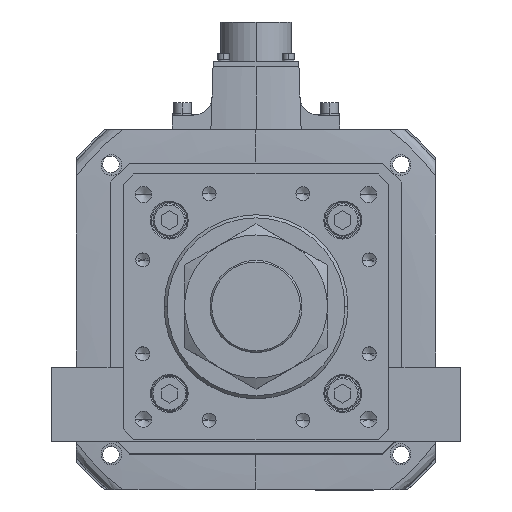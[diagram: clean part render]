
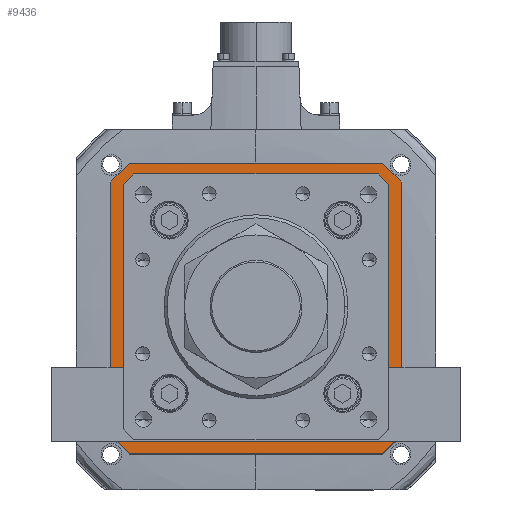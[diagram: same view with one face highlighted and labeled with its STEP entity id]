
A CAD part, top view. The second image highlights one B-rep face of the part: STEP entity #9436.
In plain terms, the highlighted planar face has unit normal (0, 0, 1).
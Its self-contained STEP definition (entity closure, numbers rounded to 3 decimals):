
#905 = VERTEX_POINT ( 'NONE', #12034 ) ;
#957 = PLANE ( 'NONE',  #25339 ) ;
#1914 = CARTESIAN_POINT ( 'NONE',  ( -71., 62., -142. ) ) ;
#3698 = VERTEX_POINT ( 'NONE', #8745 ) ;
#3820 = VERTEX_POINT ( 'NONE', #12893 ) ;
#3944 = EDGE_CURVE ( 'NONE', #53028, #33631, #14837, .T. ) ;
#4270 = VERTEX_POINT ( 'NONE', #23566 ) ;
#4489 = EDGE_CURVE ( 'NONE', #39686, #50853, #49166, .T. ) ;
#5051 = ORIENTED_EDGE ( 'NONE', *, *, #18281, .T. ) ;
#5114 = CARTESIAN_POINT ( 'NONE',  ( 63., -58.793, -142. ) ) ;
#5916 = FACE_BOUND ( 'NONE', #10498, .T. ) ;
#6188 = VECTOR ( 'NONE', #25445, 1000. ) ;
#6814 = CARTESIAN_POINT ( 'NONE',  ( -60.896, 60.896, -142. ) ) ;
#6905 = EDGE_CURVE ( 'NONE', #905, #28136, #30762, .T. ) ;
#7052 = ORIENTED_EDGE ( 'NONE', *, *, #8909, .F. ) ;
#7929 = VECTOR ( 'NONE', #20822, 1000. ) ;
#8326 = EDGE_CURVE ( 'NONE', #53724, #39958, #26321, .T. ) ;
#8618 = VECTOR ( 'NONE', #10969, 1000. ) ;
#8745 = CARTESIAN_POINT ( 'NONE',  ( 58.793, -63., -142. ) ) ;
#8909 = EDGE_CURVE ( 'NONE', #39958, #51935, #41804, .T. ) ;
#9436 = ADVANCED_FACE ( 'NONE', ( #5916, #44417 ), #957, .T. ) ;
#10498 = EDGE_LOOP ( 'NONE', ( #46000, #5051, #18447, #42297, #38110, #28929, #38498, #14362 ) ) ;
#10584 = DIRECTION ( 'NONE',  ( -1., 0., 0. ) ) ;
#10606 = LINE ( 'NONE', #1914, #8618 ) ;
#10760 = VECTOR ( 'NONE', #48867, 1000. ) ;
#10800 = CARTESIAN_POINT ( 'NONE',  ( 62., -71., -142. ) ) ;
#10969 = DIRECTION ( 'NONE',  ( 0., 1., 0. ) ) ;
#11850 = CARTESIAN_POINT ( 'NONE',  ( -58.793, 63., -142. ) ) ;
#12034 = CARTESIAN_POINT ( 'NONE',  ( -62., -71., -142. ) ) ;
#12272 = CARTESIAN_POINT ( 'NONE',  ( 60.896, -60.896, -142. ) ) ;
#12893 = CARTESIAN_POINT ( 'NONE',  ( 58.793, 63., -142. ) ) ;
#12900 = VECTOR ( 'NONE', #10584, 1000. ) ;
#12929 = CARTESIAN_POINT ( 'NONE',  ( -71., -62., -142. ) ) ;
#13569 = LINE ( 'NONE', #53760, #12900 ) ;
#14362 = ORIENTED_EDGE ( 'NONE', *, *, #41370, .T. ) ;
#14371 = DIRECTION ( 'NONE',  ( 0., -1., 0. ) ) ;
#14837 = LINE ( 'NONE', #18898, #10760 ) ;
#17103 = EDGE_CURVE ( 'NONE', #54418, #3820, #36034, .T. ) ;
#17397 = CARTESIAN_POINT ( 'NONE',  ( 71., 62., -142. ) ) ;
#17477 = CARTESIAN_POINT ( 'NONE',  ( 63., 58.793, -142. ) ) ;
#18281 = EDGE_CURVE ( 'NONE', #52006, #3698, #36579, .T. ) ;
#18327 = VECTOR ( 'NONE', #54307, 1000. ) ;
#18447 = ORIENTED_EDGE ( 'NONE', *, *, #23890, .T. ) ;
#18494 = DIRECTION ( 'NONE',  ( 1., 0., 0. ) ) ;
#18898 = CARTESIAN_POINT ( 'NONE',  ( -63., 0., -142. ) ) ;
#19918 = CARTESIAN_POINT ( 'NONE',  ( 71., 62., -142. ) ) ;
#20165 = VECTOR ( 'NONE', #21077, 1000. ) ;
#20477 = VECTOR ( 'NONE', #28253, 1000. ) ;
#20822 = DIRECTION ( 'NONE',  ( 0.707, -0.707, 0. ) ) ;
#20971 = LINE ( 'NONE', #19918, #34468 ) ;
#21077 = DIRECTION ( 'NONE',  ( -0.707, -0.707, 0. ) ) ;
#21105 = VERTEX_POINT ( 'NONE', #39226 ) ;
#21559 = VECTOR ( 'NONE', #43640, 1000. ) ;
#21637 = VERTEX_POINT ( 'NONE', #17477 ) ;
#22244 = CARTESIAN_POINT ( 'NONE',  ( 0., 0., -142. ) ) ;
#22994 = LINE ( 'NONE', #53356, #48629 ) ;
#23566 = CARTESIAN_POINT ( 'NONE',  ( -58.793, -63., -142. ) ) ;
#23890 = EDGE_CURVE ( 'NONE', #3698, #4270, #13569, .T. ) ;
#23925 = CARTESIAN_POINT ( 'NONE',  ( 0., 63., -142. ) ) ;
#23940 = EDGE_CURVE ( 'NONE', #33631, #54418, #35166, .T. ) ;
#24584 = LINE ( 'NONE', #48124, #30010 ) ;
#25339 = AXIS2_PLACEMENT_3D ( 'NONE', #22244, #44315, #18494 ) ;
#25445 = DIRECTION ( 'NONE',  ( -0.707, -0.707, 0. ) ) ;
#25501 = CARTESIAN_POINT ( 'NONE',  ( 71., 62., -142. ) ) ;
#25774 = CARTESIAN_POINT ( 'NONE',  ( 62., -71., -142. ) ) ;
#25931 = DIRECTION ( 'NONE',  ( 1., 0., 0. ) ) ;
#26321 = LINE ( 'NONE', #42556, #55327 ) ;
#27340 = CARTESIAN_POINT ( 'NONE',  ( -63., 58.793, -142. ) ) ;
#28136 = VERTEX_POINT ( 'NONE', #12929 ) ;
#28253 = DIRECTION ( 'NONE',  ( 1., 0., 0. ) ) ;
#28896 = ORIENTED_EDGE ( 'NONE', *, *, #4489, .F. ) ;
#28929 = ORIENTED_EDGE ( 'NONE', *, *, #23940, .T. ) ;
#29273 = DIRECTION ( 'NONE',  ( 0.707, 0.707, 0. ) ) ;
#30010 = VECTOR ( 'NONE', #35682, 1000. ) ;
#30762 = LINE ( 'NONE', #42130, #54302 ) ;
#30924 = EDGE_CURVE ( 'NONE', #21105, #53724, #39363, .T. ) ;
#33631 = VERTEX_POINT ( 'NONE', #27340 ) ;
#34468 = VECTOR ( 'NONE', #50075, 1000. ) ;
#35166 = LINE ( 'NONE', #6814, #18327 ) ;
#35682 = DIRECTION ( 'NONE',  ( -0.707, 0.707, 0. ) ) ;
#36034 = LINE ( 'NONE', #23925, #20477 ) ;
#36579 = LINE ( 'NONE', #12272, #6188 ) ;
#36647 = VECTOR ( 'NONE', #29273, 1000. ) ;
#36747 = EDGE_CURVE ( 'NONE', #50853, #905, #42066, .T. ) ;
#37189 = ORIENTED_EDGE ( 'NONE', *, *, #8326, .F. ) ;
#38110 = ORIENTED_EDGE ( 'NONE', *, *, #3944, .T. ) ;
#38498 = ORIENTED_EDGE ( 'NONE', *, *, #17103, .T. ) ;
#38671 = EDGE_CURVE ( 'NONE', #51935, #39686, #20971, .T. ) ;
#39201 = ORIENTED_EDGE ( 'NONE', *, *, #36747, .F. ) ;
#39226 = CARTESIAN_POINT ( 'NONE',  ( -71., 62., -142. ) ) ;
#39363 = LINE ( 'NONE', #41526, #36647 ) ;
#39686 = VERTEX_POINT ( 'NONE', #40012 ) ;
#39958 = VERTEX_POINT ( 'NONE', #49262 ) ;
#40012 = CARTESIAN_POINT ( 'NONE',  ( 71., -62., -142. ) ) ;
#40978 = DIRECTION ( 'NONE',  ( -1., 0., 0. ) ) ;
#41370 = EDGE_CURVE ( 'NONE', #3820, #21637, #51093, .T. ) ;
#41526 = CARTESIAN_POINT ( 'NONE',  ( -62., 71., -142. ) ) ;
#41804 = LINE ( 'NONE', #25501, #21559 ) ;
#42066 = LINE ( 'NONE', #10800, #52897 ) ;
#42130 = CARTESIAN_POINT ( 'NONE',  ( -62., -71., -142. ) ) ;
#42297 = ORIENTED_EDGE ( 'NONE', *, *, #43354, .T. ) ;
#42556 = CARTESIAN_POINT ( 'NONE',  ( 62., 71., -142. ) ) ;
#42572 = CARTESIAN_POINT ( 'NONE',  ( 71., -62., -142. ) ) ;
#43354 = EDGE_CURVE ( 'NONE', #4270, #53028, #24584, .T. ) ;
#43640 = DIRECTION ( 'NONE',  ( 0.707, -0.707, 0. ) ) ;
#44315 = DIRECTION ( 'NONE',  ( 0., 0., 1. ) ) ;
#44417 = FACE_OUTER_BOUND ( 'NONE', #50254, .T. ) ;
#44943 = ORIENTED_EDGE ( 'NONE', *, *, #55714, .F. ) ;
#46000 = ORIENTED_EDGE ( 'NONE', *, *, #52280, .T. ) ;
#46547 = CARTESIAN_POINT ( 'NONE',  ( -62., 71., -142. ) ) ;
#46681 = CARTESIAN_POINT ( 'NONE',  ( 60.896, 60.896, -142. ) ) ;
#46844 = DIRECTION ( 'NONE',  ( -0.707, 0.707, 0. ) ) ;
#47663 = ORIENTED_EDGE ( 'NONE', *, *, #38671, .F. ) ;
#48124 = CARTESIAN_POINT ( 'NONE',  ( -60.896, -60.896, -142. ) ) ;
#48629 = VECTOR ( 'NONE', #14371, 1000. ) ;
#48867 = DIRECTION ( 'NONE',  ( 0., 1., 0. ) ) ;
#49166 = LINE ( 'NONE', #42572, #20165 ) ;
#49262 = CARTESIAN_POINT ( 'NONE',  ( 62., 71., -142. ) ) ;
#50075 = DIRECTION ( 'NONE',  ( 0., -1., 0. ) ) ;
#50254 = EDGE_LOOP ( 'NONE', ( #37189, #55054, #44943, #55138, #39201, #28896, #47663, #7052 ) ) ;
#50853 = VERTEX_POINT ( 'NONE', #25774 ) ;
#51093 = LINE ( 'NONE', #46681, #7929 ) ;
#51380 = CARTESIAN_POINT ( 'NONE',  ( -63., -58.793, -142. ) ) ;
#51935 = VERTEX_POINT ( 'NONE', #17397 ) ;
#52006 = VERTEX_POINT ( 'NONE', #5114 ) ;
#52280 = EDGE_CURVE ( 'NONE', #21637, #52006, #22994, .T. ) ;
#52897 = VECTOR ( 'NONE', #40978, 1000. ) ;
#53028 = VERTEX_POINT ( 'NONE', #51380 ) ;
#53356 = CARTESIAN_POINT ( 'NONE',  ( 63., 0., -142. ) ) ;
#53724 = VERTEX_POINT ( 'NONE', #46547 ) ;
#53760 = CARTESIAN_POINT ( 'NONE',  ( 0., -63., -142. ) ) ;
#54302 = VECTOR ( 'NONE', #46844, 1000. ) ;
#54307 = DIRECTION ( 'NONE',  ( 0.707, 0.707, 0. ) ) ;
#54418 = VERTEX_POINT ( 'NONE', #11850 ) ;
#55054 = ORIENTED_EDGE ( 'NONE', *, *, #30924, .F. ) ;
#55138 = ORIENTED_EDGE ( 'NONE', *, *, #6905, .F. ) ;
#55327 = VECTOR ( 'NONE', #25931, 1000. ) ;
#55714 = EDGE_CURVE ( 'NONE', #28136, #21105, #10606, .T. ) ;
